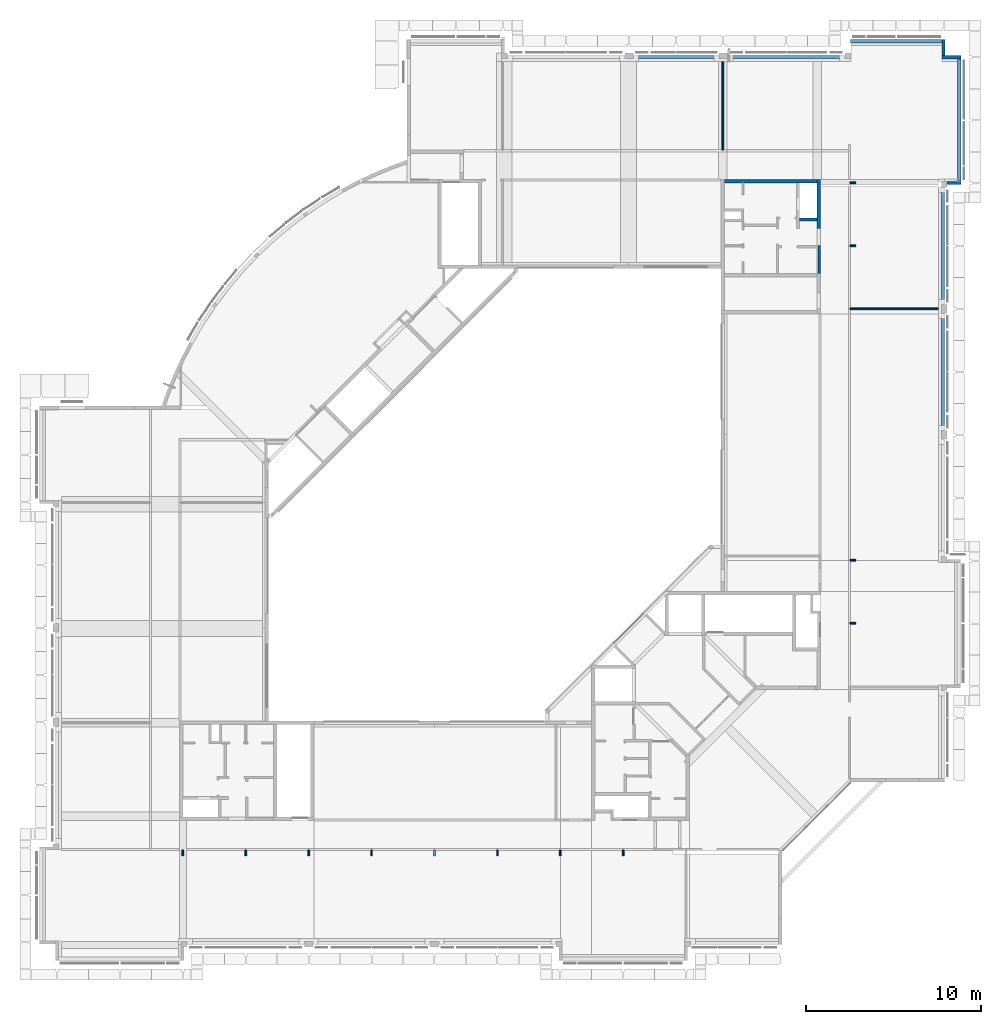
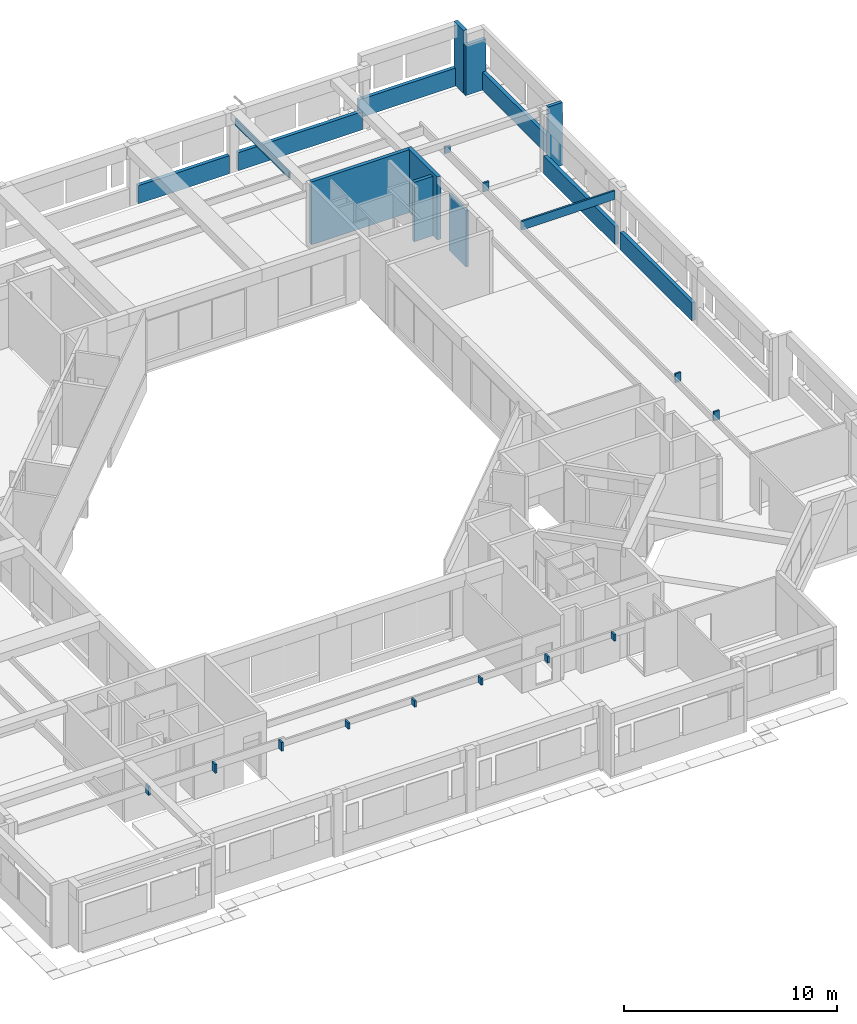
# One storey, part 18 of 26: 27 walls.
"""IFC4X3_ADD2 building model written with IfcOpenShell, lengths in millimetres."""

from ifc_helpers import new_model, si_unit, direction, frame, frame_2d, origin_with_axes, origin_2d_with_axis, place, context, subcontext, project, spatial, polyline, rectangle, outline, extrude, source, transform, mapped, material, type_object, type_shapes, element, save


model = new_model("IFC4X3_ADD2")

# Units and contexts
model_context = context("Model", 3, precision=1e-05, world=origin_with_axes(), true_north=direction((0.0, 1.0)))
body_context = subcontext(model_context, "Body", "Model", "MODEL_VIEW")
ifc_project = project(units=[si_unit("LENGTHUNIT", "METRE", prefix="MILLI"), si_unit("AREAUNIT", "SQUARE_METRE"), si_unit("VOLUMEUNIT", "CUBIC_METRE"), si_unit("PLANEANGLEUNIT", "RADIAN"), si_unit("TIMEUNIT", "SECOND"), si_unit("MASSUNIT", "GRAM")], contexts=[model_context])

# Site, building, storey
site_placement = place(None, origin_with_axes())
site = spatial("IfcSite", under=ifc_project, at=site_placement, Name="Site", CompositionType="ELEMENT")
building_placement = place(site_placement, origin_with_axes())
building = spatial("IfcBuilding", under=site, at=building_placement, Name="IFC Building Story")
storey_placement = place(building_placement, frame((0.0, 0.0, 7200.0), z_axis=(0.0, 0.0, 1.0), x_axis=(1.0, 0.0, 0.0)))
storey = spatial("IfcBuildingStorey", under=building, at=storey_placement, Name="020", Elevation=7200.0)

# Walls
ifc_material_1 = material(Name="BB_Beton_Bestaand")
wall_type_1 = type_object("IfcWallType", Name="BB_Beton_Bestaand 200", PredefinedType="NOTDEFINED", material=ifc_material_1)
wall_1_placement = place(storey_placement, origin_with_axes())
element("IfcWall", 1, at=wall_1_placement, inside=storey, type_object=wall_type_1, Name="Basic Wall:BB_XX_Wand uit beton, 200 mm", ObjectType="Basic Wall:BB_XX_Wand uit beton, 200 mm", PredefinedType="SOLIDWALL", context=body_context, shape_type="SweptSolid", body=[
    extrude(rectangle(XDim=2790.000000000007, YDim=200.0, at=frame_2d((0.0, 0.0), x_axis=(0.0, 1.0))), frame((-7100.0, 42294.99999999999, -80.0), z_axis=(0.0, 0.0, 1.0), x_axis=(1.0, 0.0, 0.0)), (0.0, 0.0, 1.0), 3600.0),
])
wall_type_2 = type_object("IfcWallType", Name="BB_Beton_Bestaand 190", PredefinedType="NOTDEFINED", material=ifc_material_1)
wall_2_placement = place(storey_placement, origin_with_axes())
element("IfcWall", 2, at=wall_2_placement, inside=storey, type_object=wall_type_2, Name="Basic Wall:BB_XX_Wand uit beton, 190 mm", ObjectType="Basic Wall:BB_XX_Wand uit beton, 190 mm", PredefinedType="SOLIDWALL", context=body_context, shape_type="SweptSolid", body=[
    extrude(rectangle(XDim=6709.999999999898, YDim=190.0, at=frame_2d((0.0, 0.0), x_axis=(0.0, 1.0))), frame((0.0, 32700.0, -200.0), z_axis=(0.0, 0.0, 1.0), x_axis=(1.0, 0.0, 0.0)), (0.0, 0.0, 1.0), 1040.0),
])
wall_3_placement = place(storey_placement, origin_with_axes())
element("IfcWall", 3, at=wall_3_placement, inside=storey, type_object=wall_type_2, Name="Basic Wall:BB_XX_Wand uit beton, 190 mm", ObjectType="Basic Wall:BB_XX_Wand uit beton, 190 mm", PredefinedType="SOLIDWALL", context=body_context, shape_type="SweptSolid", body=[
    extrude(rectangle(XDim=6689.999999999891, YDim=190.0, at=frame_2d((0.0, 0.0), x_axis=(0.0, 1.0))), frame((0.0, 39890.00000000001, -200.0), z_axis=(0.0, 0.0, 1.0), x_axis=(1.0, 0.0, 0.0)), (0.0, 0.0, 1.0), 1040.0),
])
wall_4_placement = place(storey_placement, origin_with_axes())
element("IfcWall", 4, at=wall_4_placement, inside=storey, type_object=wall_type_2, Name="Basic Wall:BB_XX_Wand uit beton, 190 mm", ObjectType="Basic Wall:BB_XX_Wand uit beton, 190 mm", PredefinedType="SOLIDWALL", context=body_context, shape_type="SweptSolid", body=[
    extrude(rectangle(XDim=7010.000000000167, YDim=190.0, at=frame_2d((0.0, 0.0), x_axis=(0.0, 1.0))), frame((935.0, 47099.99999999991, -200.0), z_axis=(0.0, 0.0, 1.0), x_axis=(1.0, 0.0, 0.0)), (0.0, 0.0, 1.0), 1040.0),
])
wall_5_placement = place(storey_placement, origin_with_axes())
element("IfcWall", 5, at=wall_5_placement, inside=storey, type_object=wall_type_2, Name="Basic Wall:BB_XX_Wand uit beton, 190 mm", ObjectType="Basic Wall:BB_XX_Wand uit beton, 190 mm", PredefinedType="SOLIDWALL", context=body_context, shape_type="SweptSolid", body=[
    extrude(rectangle(XDim=1089.99999999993, YDim=189.9999999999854, at=origin_2d_with_axis()), frame((484.999999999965, 50680.0, -200.0), z_axis=(0.0, 0.0, 1.0), x_axis=(1.0, 0.0, 0.0)), (0.0, 0.0, 1.0), 2880.0),
])
wall_6_placement = place(storey_placement, origin_with_axes())
element("IfcWall", 6, at=wall_6_placement, inside=storey, type_object=wall_type_2, Name="Basic Wall:BB_XX_Wand uit beton, 190 mm", ObjectType="Basic Wall:BB_XX_Wand uit beton, 190 mm", PredefinedType="SOLIDWALL", context=body_context, shape_type="SweptSolid", body=[
    extrude(rectangle(XDim=900.0000000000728, YDim=190.0, at=frame_2d((0.0, 0.0), x_axis=(0.0, 1.0))), frame((35.0, 51244.99999999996, -200.0), z_axis=(0.0, 0.0, 1.0), x_axis=(1.0, 0.0, 0.0)), (0.0, 0.0, 1.0), 3600.0),
])
wall_7_placement = place(storey_placement, origin_with_axes())
element("IfcWall", 7, at=wall_7_placement, inside=storey, type_object=wall_type_2, Name="Basic Wall:BB_XX_Wand uit beton, 190 mm", ObjectType="Basic Wall:BB_XX_Wand uit beton, 190 mm", PredefinedType="SOLIDWALL", context=body_context, shape_type="SweptSolid", body=[
    extrude(rectangle(XDim=5210.0, YDim=189.9999999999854, at=origin_2d_with_axis()), frame((-2700.0, 51600.0, -200.0), z_axis=(0.0, 0.0, 1.0), x_axis=(1.0, 0.0, 0.0)), (0.0, 0.0, 1.0), 1040.0),
])
wall_8_placement = place(storey_placement, origin_with_axes())
element("IfcWall", 8, at=wall_8_placement, inside=storey, type_object=wall_type_2, Name="Basic Wall:BB_XX_Wand uit beton, 190 mm", ObjectType="Basic Wall:BB_XX_Wand uit beton, 190 mm", PredefinedType="SOLIDWALL", context=body_context, shape_type="SweptSolid", body=[
    extrude(rectangle(XDim=6710.00000000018, YDim=189.9999999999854, at=origin_2d_with_axis()), frame((-9000.000000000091, 50700.0, -200.0), z_axis=(0.0, 0.0, 1.0), x_axis=(1.0, 0.0, 0.0)), (0.0, 0.0, 1.0), 1040.0),
])
wall_9_placement = place(storey_placement, origin_with_axes())
element("IfcWall", 9, at=wall_9_placement, inside=storey, type_object=wall_type_2, Name="Basic Wall:BB_XX_Wand uit beton, 190 mm", ObjectType="Basic Wall:BB_XX_Wand uit beton, 190 mm", PredefinedType="SOLIDWALL", context=body_context, shape_type="SweptSolid", body=[
    extrude(rectangle(XDim=4910.000000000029, YDim=189.9999999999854, at=origin_2d_with_axis()), frame((-15300.00000000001, 50700.0, -200.0), z_axis=(0.0, 0.0, 1.0), x_axis=(1.0, 0.0, 0.0)), (0.0, 0.0, 1.0), 1040.0),
])
wall_10_placement = place(storey_placement, origin_with_axes())
element("IfcWall", 10, at=wall_10_placement, inside=storey, type_object=wall_type_2, Name="Basic Wall:BB_XX_Wand uit beton, 190 mm", ObjectType="Basic Wall:BB_XX_Wand uit beton, 190 mm", PredefinedType="SOLIDWALL", context=body_context, shape_type="SweptSolid", body=[
    extrude(rectangle(XDim=5300.00406588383, YDim=189.9999999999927, at=origin_2d_with_axis()), frame((-9850.002032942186, 43595.0, -80.0), z_axis=(0.0, 0.0, 1.0), x_axis=(1.0, 0.0, 0.0)), (0.0, 0.0, 1.0), 3600.0),
])
wall_type_3 = type_object("IfcWallType", Name="BB_Beton_Bestaand 170", PredefinedType="NOTDEFINED", material=ifc_material_1)
wall_11_placement = place(storey_placement, origin_with_axes())
element("IfcWall", 11, at=wall_11_placement, inside=storey, type_object=wall_type_3, Name="Basic Wall:BB_XX_Wand uit beton, 170 mm", ObjectType="Basic Wall:BB_XX_Wand uit beton, 170 mm", PredefinedType="SOLIDWALL", context=body_context, shape_type="SweptSolid", body=[
    extrude(rectangle(XDim=784.999999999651, YDim=169.9999999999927, at=origin_2d_with_axis()), frame((637.5000000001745, 43490.0, -200.0), z_axis=(0.0, 0.0, 1.0), x_axis=(1.0, 0.0, 0.0)), (0.0, 0.0, 1.0), 3600.0),
])
ifc_material_2 = material(Name="BB_Metselwerk_Bestaand")
wall_type_4 = type_object("IfcWallType", Name="BB_Metselwerk_Bestaand 140", PredefinedType="NOTDEFINED", material=ifc_material_2)
wall_12_placement = place(storey_placement, origin_with_axes())
element("IfcWall", 12, at=wall_12_placement, inside=storey, type_object=wall_type_4, Name="Basic Wall:BB_XX_Wand uit metselwerk, 140 mm", ObjectType="Basic Wall:BB_XX_Wand uit metselwerk, 140 mm", PredefinedType="SOLIDWALL", context=body_context, shape_type="SweptSolid", body=[
    extrude(rectangle(XDim=1609.999999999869, YDim=140.0, at=frame_2d((0.0, 0.0), x_axis=(0.0, 1.0))), frame((-7070.0, 39104.99999999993, -80.0), z_axis=(0.0, 0.0, 1.0), x_axis=(1.0, 0.0, 0.0)), (0.0, 0.0, 1.0), 3220.0),
])
wall_type_5 = type_object("IfcWallType", Name="BB_Metselwerk_Bestaand 190", PredefinedType="NOTDEFINED", material=ifc_material_2)
wall_13_placement = place(storey_placement, origin_with_axes())
element("IfcWall", 13, at=wall_13_placement, inside=storey, type_object=wall_type_5, Name="Basic Wall:BB_XX_Wand uit metselwerk, 190 mm", ObjectType="Basic Wall:BB_XX_Wand uit metselwerk, 190 mm", PredefinedType="SOLIDWALL", context=body_context, shape_type="SweptSolid", body=[
    extrude(rectangle(XDim=999.9999999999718, YDim=189.9999999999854, at=origin_2d_with_axis()), frame((-7700.000000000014, 41405.0, -80.0), z_axis=(0.0, 0.0, 1.0), x_axis=(1.0, 0.0, 0.0)), (0.0, 0.0, 1.0), 3400.0),
])
wall_type_6 = type_object("IfcWallType", Name="Basic Wall_BB_10.01.41#01_Gipskartonwand_MS100 _ 25.50.25_ 100 mm89", PredefinedType="NOTDEFINED")
shared_shape_1 = source(origin_with_axes(), body_context, "Body", "SweptSolid", [
    extrude(rectangle(XDim=5040.00000000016, YDim=12.49999999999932, at=origin_2d_with_axis()), frame((2519.999999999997, 43.7499999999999, 0.0), z_axis=(0.0, 0.0, 1.0), x_axis=(1.0, 0.0, 0.0)), (0.0, 0.0, 1.0), 359.999999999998),
    extrude(rectangle(XDim=5052.50000000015, YDim=12.49999999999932, at=origin_2d_with_axis()), frame((2526.250000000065, 31.2500000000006, 0.0), z_axis=(0.0, 0.0, 1.0), x_axis=(1.0, 0.0, 0.0)), (0.0, 0.0, 1.0), 359.999999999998),
    extrude(rectangle(XDim=5065.00000000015, YDim=50.00000000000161, at=origin_2d_with_axis()), frame((2532.500000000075, -1.072031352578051e-12, 0.0), z_axis=(0.0, 0.0, 1.0), x_axis=(1.0, 0.0, 0.0)), (0.0, 0.0, 1.0), 359.999999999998),
    extrude(rectangle(XDim=5040.00000000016, YDim=12.49999999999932, at=origin_2d_with_axis()), frame((2520.0, -31.2500000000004, 0.0), z_axis=(0.0, 0.0, 1.0), x_axis=(1.0, 0.0, 0.0)), (0.0, 0.0, 1.0), 359.999999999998),
    extrude(rectangle(XDim=5040.00000000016, YDim=12.49999999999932, at=origin_2d_with_axis()), frame((2520.0, -43.74999999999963, 0.0), z_axis=(0.0, 0.0, 1.0), x_axis=(1.0, 0.0, 0.0)), (0.0, 0.0, 1.0), 359.999999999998),
])
type_shapes(wall_type_6, [shared_shape_1])
wall_14_placement = place(storey_placement, frame((-12600.0, 50430.0, 2640.0), z_axis=(0.0, 0.0, 1.0), x_axis=(0.0, -1.0, 0.0)))
element("IfcWall", 14, at=wall_14_placement, inside=storey, type_object=wall_type_6, Name="Basic Wall:BB_10.01.41#01_Gipskartonwand_MS100 / 25.50.25, 100 mm", ObjectType="Basic Wall:BB_10.01.41#01_Gipskartonwand_MS100 / 25.50.25, 100 mm", PredefinedType="PARTITIONING", context=body_context, shape_type="MappedRepresentation", body=[
    mapped(shared_shape_1, transform((0.0, 0.0, 0.0))),
])
wall_type_7 = type_object("IfcWallType", Name="Basic Wall_BB_10.01.41#01_Gipskartonwand_MS100 _ 25.50.25_ 100 mm91", PredefinedType="NOTDEFINED")
shared_shape_2 = source(origin_with_axes(), body_context, "Body", "SweptSolid", [
    extrude(rectangle(XDim=5030.0, YDim=12.50000000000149, at=origin_2d_with_axis()), frame((2515.0, 43.74999999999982, 0.0), z_axis=(0.0, 0.0, 1.0), x_axis=(1.0, 0.0, 0.0)), (0.0, 0.0, 1.0), 500.000000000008),
    extrude(rectangle(XDim=5042.5, YDim=12.50000000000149, at=origin_2d_with_axis()), frame((2521.249999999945, 31.24999999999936, 0.0), z_axis=(0.0, 0.0, 1.0), x_axis=(1.0, 0.0, 0.0)), (0.0, 0.0, 1.0), 500.000000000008),
    extrude(rectangle(XDim=5055.0, YDim=49.9999999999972, at=origin_2d_with_axis()), frame((2527.49999999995, 0.0, 0.0), z_axis=(0.0, 0.0, 1.0), x_axis=(1.0, 0.0, 0.0)), (0.0, 0.0, 1.0), 500.000000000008),
    extrude(rectangle(XDim=5030.0, YDim=12.50000000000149, at=origin_2d_with_axis()), frame((2515.0, -31.24999999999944, 0.0), z_axis=(0.0, 0.0, 1.0), x_axis=(1.0, 0.0, 0.0)), (0.0, 0.0, 1.0), 500.000000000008),
    extrude(rectangle(XDim=5030.0, YDim=12.49999999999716, at=origin_2d_with_axis()), frame((2515.0, -43.74999999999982, 0.0), z_axis=(0.0, 0.0, 1.0), x_axis=(1.0, 0.0, 0.0)), (0.0, 0.0, 1.0), 500.000000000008),
])
type_shapes(wall_type_7, [shared_shape_2])
wall_15_placement = place(storey_placement, frame((-270.0, 36300.0, 2640.0), z_axis=(0.0, 0.0, 1.0), x_axis=(-1.0, 0.0, 0.0)))
element("IfcWall", 15, at=wall_15_placement, inside=storey, type_object=wall_type_7, Name="Basic Wall:BB_10.01.41#01_Gipskartonwand_MS100 / 25.50.25, 100 mm", ObjectType="Basic Wall:BB_10.01.41#01_Gipskartonwand_MS100 / 25.50.25, 100 mm", PredefinedType="PARTITIONING", context=body_context, shape_type="MappedRepresentation", body=[
    mapped(shared_shape_2, transform((0.0, 0.0, 0.0))),
])
wall_type_8 = type_object("IfcWallType", Name="Basic Wall_BB_10.01.41#01_Gipskartonwand_MS100 _ 25.50.25_ 100 mm93", PredefinedType="NOTDEFINED")
shared_shape_3 = source(origin_with_axes(), body_context, "Body", "SweptSolid", [
    extrude(rectangle(XDim=299.999999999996, YDim=12.50000000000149, at=origin_2d_with_axis()), frame((150.0, 43.74999999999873, 0.0), z_axis=(0.0, 0.0, 1.0), x_axis=(1.0, 0.0, 0.0)), (0.0, 0.0, 1.0), 500.000000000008),
    extrude(outline(polyline([(-204.1666666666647, -213.3333333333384), (-204.1666666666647, 286.6666666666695), (108.3333333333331, 286.6666666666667), (108.3333333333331, -73.3333333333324), (95.83333333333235, -73.33333333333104), (95.83333333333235, -213.3333333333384), (-204.1666666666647, -213.3333333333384)])), frame((204.1666666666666, 25.000000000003, 286.6666666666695), z_axis=(0.0, 1.0, 0.0), x_axis=(1.0, 0.0, 0.0)), (0.0, 0.0, 1.0), 12.5000000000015),
    extrude(outline(polyline([(-208.3333333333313, -213.3333333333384), (-208.3333333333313, 286.6666666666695), (116.6666666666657, 286.6666666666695), (116.6666666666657, -73.33333333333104), (91.66666666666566, -73.33333333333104), (91.66666666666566, -213.3333333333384), (-208.3333333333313, -213.3333333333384)])), frame((208.3333333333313, -24.9999999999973, 286.6666666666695), z_axis=(0.0, 1.0, 0.0), x_axis=(1.0, 0.0, 0.0)), (0.0, 0.0, 1.0), 49.9999999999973),
    extrude(rectangle(XDim=299.999999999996, YDim=12.50000000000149, at=origin_2d_with_axis()), frame((150.0, -31.25000000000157, 0.0), z_axis=(0.0, 0.0, 1.0), x_axis=(1.0, 0.0, 0.0)), (0.0, 0.0, 1.0), 500.000000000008),
    extrude(rectangle(XDim=299.999999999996, YDim=12.49999999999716, at=origin_2d_with_axis()), frame((150.0, -43.750000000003, 0.0), z_axis=(0.0, 0.0, 1.0), x_axis=(1.0, 0.0, 0.0)), (0.0, 0.0, 1.0), 500.000000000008),
])
type_shapes(wall_type_8, [shared_shape_3])
wall_16_placement = place(storey_placement, frame((-5000.0, 21900.0, 2640.0), z_axis=(0.0, 0.0, 1.0), x_axis=(-1.0, 0.0, 0.0)))
element("IfcWall", 16, at=wall_16_placement, inside=storey, type_object=wall_type_8, Name="Basic Wall:BB_10.01.41#01_Gipskartonwand_MS100 / 25.50.25, 100 mm", ObjectType="Basic Wall:BB_10.01.41#01_Gipskartonwand_MS100 / 25.50.25, 100 mm", PredefinedType="PARTITIONING", context=body_context, shape_type="MappedRepresentation", body=[
    mapped(shared_shape_3, transform((0.0, 0.0, 0.0))),
])
wall_type_9 = type_object("IfcWallType", Name="Basic Wall_BB_10.01.41#01_Gipskartonwand_MS100 _ 25.50.25_ 100 mm95", PredefinedType="NOTDEFINED")
shared_shape_4 = source(origin_with_axes(), body_context, "Body", "SweptSolid", [
    extrude(rectangle(XDim=300.0, YDim=12.49999999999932, at=origin_2d_with_axis()), frame((150.0, 43.74999999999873, 0.0), z_axis=(0.0, 0.0, 1.0), x_axis=(1.0, 0.0, 0.0)), (0.0, 0.0, 1.0), 360.0),
    extrude(rectangle(XDim=312.5, YDim=12.49999999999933, at=origin_2d_with_axis()), frame((156.2500000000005, 31.25000000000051, 0.0), z_axis=(0.0, 0.0, 1.0), x_axis=(1.0, 0.0, 0.0)), (0.0, 0.0, 1.0), 360.0),
    extrude(rectangle(XDim=325.0, YDim=50.0000000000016, at=origin_2d_with_axis()), frame((162.5000000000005, 0.0, 0.0), z_axis=(0.0, 0.0, 1.0), x_axis=(1.0, 0.0, 0.0)), (0.0, 0.0, 1.0), 360.0),
    extrude(rectangle(XDim=300.0, YDim=12.49999999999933, at=origin_2d_with_axis()), frame((150.0, -31.25000000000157, 0.0), z_axis=(0.0, 0.0, 1.0), x_axis=(1.0, 0.0, 0.0)), (0.0, 0.0, 1.0), 360.0),
    extrude(rectangle(XDim=300.0, YDim=12.49999999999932, at=origin_2d_with_axis()), frame((150.0, -43.750000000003, 0.0), z_axis=(0.0, 0.0, 1.0), x_axis=(1.0, 0.0, 0.0)), (0.0, 0.0, 1.0), 360.0),
])
type_shapes(wall_type_9, [shared_shape_4])
wall_17_placement = place(storey_placement, frame((-18300.0, 5000.0, 2640.0), z_axis=(0.0, 0.0, 1.0), x_axis=(0.0, 1.0, 0.0)))
element("IfcWall", 17, at=wall_17_placement, inside=storey, type_object=wall_type_9, Name="Basic Wall:BB_10.01.41#01_Gipskartonwand_MS100 / 25.50.25, 100 mm", ObjectType="Basic Wall:BB_10.01.41#01_Gipskartonwand_MS100 / 25.50.25, 100 mm", PredefinedType="PARTITIONING", context=body_context, shape_type="MappedRepresentation", body=[
    mapped(shared_shape_4, transform((0.0, 0.0, 0.0))),
])
wall_type_10 = type_object("IfcWallType", Name="Basic Wall_BB_10.01.41#01_Gipskartonwand_MS100 _ 25.50.25_ 100 mm97", PredefinedType="NOTDEFINED")
shared_shape_5 = source(origin_with_axes(), body_context, "Body", "SweptSolid", [
    extrude(rectangle(XDim=299.999999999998, YDim=12.50000000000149, at=origin_2d_with_axis()), frame((150.0, 43.74999999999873, 0.0), z_axis=(0.0, 0.0, 1.0), x_axis=(1.0, 0.0, 0.0)), (0.0, 0.0, 1.0), 360.0),
    extrude(rectangle(XDim=312.499999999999, YDim=12.50000000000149, at=origin_2d_with_axis()), frame((156.2500000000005, 31.25000000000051, 0.0), z_axis=(0.0, 0.0, 1.0), x_axis=(1.0, 0.0, 0.0)), (0.0, 0.0, 1.0), 360.0),
    extrude(rectangle(XDim=324.999999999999, YDim=49.9999999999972, at=origin_2d_with_axis()), frame((162.5000000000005, 0.0, 0.0), z_axis=(0.0, 0.0, 1.0), x_axis=(1.0, 0.0, 0.0)), (0.0, 0.0, 1.0), 360.0),
    extrude(rectangle(XDim=299.999999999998, YDim=12.50000000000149, at=origin_2d_with_axis()), frame((150.0, -31.25000000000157, 0.0), z_axis=(0.0, 0.0, 1.0), x_axis=(1.0, 0.0, 0.0)), (0.0, 0.0, 1.0), 360.0),
    extrude(rectangle(XDim=299.999999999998, YDim=12.49999999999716, at=origin_2d_with_axis()), frame((150.0, -43.750000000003, 0.0), z_axis=(0.0, 0.0, 1.0), x_axis=(1.0, 0.0, 0.0)), (0.0, 0.0, 1.0), 360.0),
])
type_shapes(wall_type_10, [shared_shape_5])
wall_18_placement = place(storey_placement, frame((-21900.0, 5000.0, 2640.0), z_axis=(0.0, 0.0, 1.0), x_axis=(0.0, 1.0, 0.0)))
element("IfcWall", 18, at=wall_18_placement, inside=storey, type_object=wall_type_10, Name="Basic Wall:BB_10.01.41#01_Gipskartonwand_MS100 / 25.50.25, 100 mm", ObjectType="Basic Wall:BB_10.01.41#01_Gipskartonwand_MS100 / 25.50.25, 100 mm", PredefinedType="PARTITIONING", context=body_context, shape_type="MappedRepresentation", body=[
    mapped(shared_shape_5, transform((0.0, 0.0, 0.0))),
])
wall_type_11 = type_object("IfcWallType", Name="Basic Wall_BB_10.01.41#01_Gipskartonwand_MS100 _ 25.50.25_ 100 mm99", PredefinedType="NOTDEFINED")
shared_shape_6 = source(origin_with_axes(), body_context, "Body", "SweptSolid", [
    extrude(rectangle(XDim=299.999999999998, YDim=12.50000000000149, at=origin_2d_with_axis()), frame((150.0, 43.74999999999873, 0.0), z_axis=(0.0, 0.0, 1.0), x_axis=(1.0, 0.0, 0.0)), (0.0, 0.0, 1.0), 360.0),
    extrude(rectangle(XDim=312.499999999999, YDim=12.50000000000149, at=origin_2d_with_axis()), frame((156.2500000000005, 31.25000000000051, 0.0), z_axis=(0.0, 0.0, 1.0), x_axis=(1.0, 0.0, 0.0)), (0.0, 0.0, 1.0), 360.0),
    extrude(rectangle(XDim=324.999999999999, YDim=49.9999999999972, at=origin_2d_with_axis()), frame((162.5000000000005, 0.0, 0.0), z_axis=(0.0, 0.0, 1.0), x_axis=(1.0, 0.0, 0.0)), (0.0, 0.0, 1.0), 360.0),
    extrude(rectangle(XDim=299.999999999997, YDim=12.50000000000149, at=origin_2d_with_axis()), frame((150.0, -31.25000000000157, 0.0), z_axis=(0.0, 0.0, 1.0), x_axis=(1.0, 0.0, 0.0)), (0.0, 0.0, 1.0), 360.0),
    extrude(rectangle(XDim=299.999999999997, YDim=12.49999999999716, at=origin_2d_with_axis()), frame((150.0, -43.750000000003, 0.0), z_axis=(0.0, 0.0, 1.0), x_axis=(1.0, 0.0, 0.0)), (0.0, 0.0, 1.0), 360.0),
])
type_shapes(wall_type_11, [shared_shape_6])
wall_19_placement = place(storey_placement, frame((-25500.0, 5000.0, 2640.0), z_axis=(0.0, 0.0, 1.0), x_axis=(0.0, 1.0, 0.0)))
element("IfcWall", 19, at=wall_19_placement, inside=storey, type_object=wall_type_11, Name="Basic Wall:BB_10.01.41#01_Gipskartonwand_MS100 / 25.50.25, 100 mm", ObjectType="Basic Wall:BB_10.01.41#01_Gipskartonwand_MS100 / 25.50.25, 100 mm", PredefinedType="PARTITIONING", context=body_context, shape_type="MappedRepresentation", body=[
    mapped(shared_shape_6, transform((0.0, 0.0, 0.0))),
])
wall_type_12 = type_object("IfcWallType", Name="Basic Wall_BB_10.01.41#01_Gipskartonwand_MS100 _ 25.50.25_ 100 mm101", PredefinedType="NOTDEFINED")
shared_shape_7 = source(origin_with_axes(), body_context, "Body", "SweptSolid", [
    extrude(rectangle(XDim=299.999999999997, YDim=12.50000000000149, at=origin_2d_with_axis()), frame((150.0, 43.74999999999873, 0.0), z_axis=(0.0, 0.0, 1.0), x_axis=(1.0, 0.0, 0.0)), (0.0, 0.0, 1.0), 360.0),
    extrude(rectangle(XDim=312.499999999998, YDim=12.50000000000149, at=origin_2d_with_axis()), frame((156.2500000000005, 31.25000000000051, 0.0), z_axis=(0.0, 0.0, 1.0), x_axis=(1.0, 0.0, 0.0)), (0.0, 0.0, 1.0), 360.0),
    extrude(rectangle(XDim=324.999999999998, YDim=49.9999999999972, at=origin_2d_with_axis()), frame((162.5000000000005, 0.0, 0.0), z_axis=(0.0, 0.0, 1.0), x_axis=(1.0, 0.0, 0.0)), (0.0, 0.0, 1.0), 360.0),
    extrude(rectangle(XDim=299.999999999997, YDim=12.50000000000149, at=origin_2d_with_axis()), frame((150.0, -31.25000000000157, 0.0), z_axis=(0.0, 0.0, 1.0), x_axis=(1.0, 0.0, 0.0)), (0.0, 0.0, 1.0), 360.0),
    extrude(rectangle(XDim=299.999999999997, YDim=12.49999999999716, at=origin_2d_with_axis()), frame((150.0, -43.750000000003, 0.0), z_axis=(0.0, 0.0, 1.0), x_axis=(1.0, 0.0, 0.0)), (0.0, 0.0, 1.0), 360.0),
])
type_shapes(wall_type_12, [shared_shape_7])
wall_20_placement = place(storey_placement, frame((-29100.0, 5000.0, 2640.0), z_axis=(0.0, 0.0, 1.0), x_axis=(0.0, 1.0, 0.0)))
element("IfcWall", 20, at=wall_20_placement, inside=storey, type_object=wall_type_12, Name="Basic Wall:BB_10.01.41#01_Gipskartonwand_MS100 / 25.50.25, 100 mm", ObjectType="Basic Wall:BB_10.01.41#01_Gipskartonwand_MS100 / 25.50.25, 100 mm", PredefinedType="PARTITIONING", context=body_context, shape_type="MappedRepresentation", body=[
    mapped(shared_shape_7, transform((0.0, 0.0, 0.0))),
])
wall_type_13 = type_object("IfcWallType", Name="Basic Wall_BB_10.01.41#01_Gipskartonwand_MS100 _ 25.50.25_ 100 mm103", PredefinedType="NOTDEFINED")
shared_shape_8 = source(origin_with_axes(), body_context, "Body", "SweptSolid", [
    extrude(rectangle(XDim=299.999999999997, YDim=12.50000000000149, at=origin_2d_with_axis()), frame((150.0, 43.74999999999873, 0.0), z_axis=(0.0, 0.0, 1.0), x_axis=(1.0, 0.0, 0.0)), (0.0, 0.0, 1.0), 360.0),
    extrude(rectangle(XDim=312.499999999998, YDim=12.50000000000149, at=origin_2d_with_axis()), frame((156.2500000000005, 31.25000000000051, 0.0), z_axis=(0.0, 0.0, 1.0), x_axis=(1.0, 0.0, 0.0)), (0.0, 0.0, 1.0), 360.0),
    extrude(rectangle(XDim=324.999999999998, YDim=49.9999999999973, at=origin_2d_with_axis()), frame((162.5000000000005, 0.0, 0.0), z_axis=(0.0, 0.0, 1.0), x_axis=(1.0, 0.0, 0.0)), (0.0, 0.0, 1.0), 360.0),
    extrude(rectangle(XDim=299.999999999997, YDim=12.50000000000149, at=origin_2d_with_axis()), frame((150.0, -31.25000000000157, 0.0), z_axis=(0.0, 0.0, 1.0), x_axis=(1.0, 0.0, 0.0)), (0.0, 0.0, 1.0), 360.0),
    extrude(rectangle(XDim=299.999999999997, YDim=12.49999999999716, at=origin_2d_with_axis()), frame((150.0, -43.750000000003, 0.0), z_axis=(0.0, 0.0, 1.0), x_axis=(1.0, 0.0, 0.0)), (0.0, 0.0, 1.0), 360.0),
])
type_shapes(wall_type_13, [shared_shape_8])
wall_21_placement = place(storey_placement, frame((-32700.0, 5000.0, 2640.0), z_axis=(0.0, 0.0, 1.0), x_axis=(0.0, 1.0, 0.0)))
element("IfcWall", 21, at=wall_21_placement, inside=storey, type_object=wall_type_13, Name="Basic Wall:BB_10.01.41#01_Gipskartonwand_MS100 / 25.50.25, 100 mm", ObjectType="Basic Wall:BB_10.01.41#01_Gipskartonwand_MS100 / 25.50.25, 100 mm", PredefinedType="PARTITIONING", context=body_context, shape_type="MappedRepresentation", body=[
    mapped(shared_shape_8, transform((0.0, 0.0, 0.0))),
])
wall_type_14 = type_object("IfcWallType", Name="Basic Wall_BB_10.01.41#01_Gipskartonwand_MS100 _ 25.50.25_ 100 mm105", PredefinedType="NOTDEFINED")
shared_shape_9 = source(origin_with_axes(), body_context, "Body", "SweptSolid", [
    extrude(rectangle(XDim=299.999999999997, YDim=12.50000000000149, at=origin_2d_with_axis()), frame((150.0, 43.74999999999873, 0.0), z_axis=(0.0, 0.0, 1.0), x_axis=(1.0, 0.0, 0.0)), (0.0, 0.0, 1.0), 500.000000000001),
    extrude(rectangle(XDim=312.499999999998, YDim=12.50000000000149, at=origin_2d_with_axis()), frame((156.2500000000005, 31.25000000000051, 0.0), z_axis=(0.0, 0.0, 1.0), x_axis=(1.0, 0.0, 0.0)), (0.0, 0.0, 1.0), 500.000000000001),
    extrude(rectangle(XDim=324.999999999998, YDim=49.9999999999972, at=origin_2d_with_axis()), frame((162.5000000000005, 0.0, 0.0), z_axis=(0.0, 0.0, 1.0), x_axis=(1.0, 0.0, 0.0)), (0.0, 0.0, 1.0), 500.000000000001),
    extrude(rectangle(XDim=299.999999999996, YDim=12.50000000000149, at=origin_2d_with_axis()), frame((150.0, -31.25000000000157, 0.0), z_axis=(0.0, 0.0, 1.0), x_axis=(1.0, 0.0, 0.0)), (0.0, 0.0, 1.0), 500.000000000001),
    extrude(rectangle(XDim=299.999999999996, YDim=12.49999999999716, at=origin_2d_with_axis()), frame((150.0, -43.750000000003, 0.0), z_axis=(0.0, 0.0, 1.0), x_axis=(1.0, 0.0, 0.0)), (0.0, 0.0, 1.0), 500.000000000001),
])
type_shapes(wall_type_14, [shared_shape_9])
wall_22_placement = place(storey_placement, frame((-36300.0, 5000.0, 2640.0), z_axis=(0.0, 0.0, 1.0), x_axis=(0.0, 1.0, 0.0)))
element("IfcWall", 22, at=wall_22_placement, inside=storey, type_object=wall_type_14, Name="Basic Wall:BB_10.01.41#01_Gipskartonwand_MS100 / 25.50.25, 100 mm", ObjectType="Basic Wall:BB_10.01.41#01_Gipskartonwand_MS100 / 25.50.25, 100 mm", PredefinedType="PARTITIONING", context=body_context, shape_type="MappedRepresentation", body=[
    mapped(shared_shape_9, transform((0.0, 0.0, 0.0))),
])
wall_type_15 = type_object("IfcWallType", Name="Basic Wall_BB_10.01.41#01_Gipskartonwand_MS100 _ 25.50.25_ 100 mm117", PredefinedType="NOTDEFINED")
shared_shape_10 = source(origin_with_axes(), body_context, "Body", "SweptSolid", [
    extrude(rectangle(XDim=299.999999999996, YDim=12.49999999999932, at=origin_2d_with_axis()), frame((150.0, 43.74999999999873, 0.0), z_axis=(0.0, 0.0, 1.0), x_axis=(1.0, 0.0, 0.0)), (0.0, 0.0, 1.0), 500.000000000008),
    extrude(outline(polyline([(-204.1666666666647, -213.3333333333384), (-204.1666666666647, 286.6666666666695), (108.3333333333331, 286.6666666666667), (108.3333333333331, -73.3333333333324), (95.83333333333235, -73.33333333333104), (95.83333333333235, -213.3333333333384), (-204.1666666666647, -213.3333333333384)])), frame((204.1666666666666, 25.000000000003, 286.6666666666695), z_axis=(0.0, 1.0, 0.0), x_axis=(1.0, 0.0, 0.0)), (0.0, 0.0, 1.0), 12.49999999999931),
    extrude(outline(polyline([(-208.3333333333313, -213.3333333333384), (-208.3333333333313, 286.6666666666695), (116.6666666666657, 286.6666666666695), (116.6666666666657, -73.33333333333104), (91.66666666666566, -73.33333333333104), (91.66666666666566, -213.3333333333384), (-208.3333333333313, -213.3333333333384)])), frame((208.3333333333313, -24.9999999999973, 286.6666666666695), z_axis=(0.0, 1.0, 0.0), x_axis=(1.0, 0.0, 0.0)), (0.0, 0.0, 1.0), 50.00000000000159),
    extrude(rectangle(XDim=299.999999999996, YDim=12.49999999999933, at=origin_2d_with_axis()), frame((150.0, -31.25000000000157, 0.0), z_axis=(0.0, 0.0, 1.0), x_axis=(1.0, 0.0, 0.0)), (0.0, 0.0, 1.0), 500.000000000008),
    extrude(rectangle(XDim=299.999999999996, YDim=12.49999999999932, at=origin_2d_with_axis()), frame((150.0, -43.750000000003, 0.0), z_axis=(0.0, 0.0, 1.0), x_axis=(1.0, 0.0, 0.0)), (0.0, 0.0, 1.0), 500.000000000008),
])
type_shapes(wall_type_15, [shared_shape_10])
wall_23_placement = place(storey_placement, frame((-5000.0, 18300.0, 2640.0), z_axis=(0.0, 0.0, 1.0), x_axis=(-1.0, 0.0, 0.0)))
element("IfcWall", 23, at=wall_23_placement, inside=storey, type_object=wall_type_15, Name="Basic Wall:BB_10.01.41#01_Gipskartonwand_MS100 / 25.50.25, 100 mm", ObjectType="Basic Wall:BB_10.01.41#01_Gipskartonwand_MS100 / 25.50.25, 100 mm", PredefinedType="PARTITIONING", context=body_context, shape_type="MappedRepresentation", body=[
    mapped(shared_shape_10, transform((0.0, 0.0, 0.0))),
])
wall_type_16 = type_object("IfcWallType", Name="Basic Wall_BB_10.01.41#01_Gipskartonwand_MS100 _ 25.50.25_ 100 mm125", PredefinedType="NOTDEFINED")
shared_shape_11 = source(origin_with_axes(), body_context, "Body", "SweptSolid", [
    extrude(rectangle(XDim=299.999999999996, YDim=12.49999999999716, at=origin_2d_with_axis()), frame((150.0, 43.74999999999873, 0.0), z_axis=(0.0, 0.0, 1.0), x_axis=(1.0, 0.0, 0.0)), (0.0, 0.0, 1.0), 500.000000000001),
    extrude(rectangle(XDim=312.499999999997, YDim=12.49999999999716, at=origin_2d_with_axis()), frame((156.2500000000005, 31.25000000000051, 0.0), z_axis=(0.0, 0.0, 1.0), x_axis=(1.0, 0.0, 0.0)), (0.0, 0.0, 1.0), 500.000000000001),
    extrude(rectangle(XDim=324.999999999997, YDim=50.000000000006, at=origin_2d_with_axis()), frame((162.5000000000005, 0.0, 0.0), z_axis=(0.0, 0.0, 1.0), x_axis=(1.0, 0.0, 0.0)), (0.0, 0.0, 1.0), 500.000000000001),
    extrude(rectangle(XDim=299.999999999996, YDim=12.49999999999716, at=origin_2d_with_axis()), frame((150.0, -31.25000000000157, 0.0), z_axis=(0.0, 0.0, 1.0), x_axis=(1.0, 0.0, 0.0)), (0.0, 0.0, 1.0), 500.000000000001),
    extrude(rectangle(XDim=299.999999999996, YDim=12.50000000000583, at=origin_2d_with_axis()), frame((150.0, -43.750000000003, 0.0), z_axis=(0.0, 0.0, 1.0), x_axis=(1.0, 0.0, 0.0)), (0.0, 0.0, 1.0), 500.000000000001),
])
type_shapes(wall_type_16, [shared_shape_11])
wall_24_placement = place(storey_placement, frame((-39900.0, 5000.0, 2640.0), z_axis=(0.0, 0.0, 1.0), x_axis=(0.0, 1.0, 0.0)))
element("IfcWall", 24, at=wall_24_placement, inside=storey, type_object=wall_type_16, Name="Basic Wall:BB_10.01.41#01_Gipskartonwand_MS100 / 25.50.25, 100 mm", ObjectType="Basic Wall:BB_10.01.41#01_Gipskartonwand_MS100 / 25.50.25, 100 mm", PredefinedType="PARTITIONING", context=body_context, shape_type="MappedRepresentation", body=[
    mapped(shared_shape_11, transform((0.0, 0.0, 0.0))),
])
wall_type_17 = type_object("IfcWallType", Name="Basic Wall_BB_10.01.41#01_Gipskartonwand_MS100 _ 25.50.25_ 100 mm127", PredefinedType="NOTDEFINED")
shared_shape_12 = source(origin_with_axes(), body_context, "Body", "SweptSolid", [
    extrude(rectangle(XDim=299.999999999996, YDim=12.49999999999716, at=origin_2d_with_axis()), frame((150.0, 43.74999999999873, 0.0), z_axis=(0.0, 0.0, 1.0), x_axis=(1.0, 0.0, 0.0)), (0.0, 0.0, 1.0), 500.000000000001),
    extrude(outline(polyline([(-204.1666666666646, -180.0000000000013), (-204.1666666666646, 320.0), (108.3333333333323, 320.0), (108.3333333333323, -139.9999999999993), (95.83333333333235, -139.9999999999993), (95.83333333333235, -180.0000000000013), (-204.1666666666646, -180.0000000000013)])), frame((204.1666666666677, 25.0000000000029, 320.0000000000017), z_axis=(0.0, 1.0, 0.0), x_axis=(1.0, 0.0, 0.0)), (0.0, 0.0, 1.0), 12.49999999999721),
    extrude(outline(polyline([(-208.3333333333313, -180.0000000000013), (-208.3333333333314, 320.0), (116.6666666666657, 320.0), (116.6666666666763, -140.0000000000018), (91.66666666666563, -139.9999999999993), (91.66666666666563, -180.0000000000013), (-208.3333333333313, -180.0000000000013)])), frame((208.3333333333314, -25.000000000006, 320.0000000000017), z_axis=(0.0, 1.0, 0.0), x_axis=(1.0, 0.0, 0.0)), (0.0, 0.0, 1.0), 50.000000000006),
    extrude(rectangle(XDim=299.999999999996, YDim=12.49999999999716, at=origin_2d_with_axis()), frame((150.0, -31.25000000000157, 0.0), z_axis=(0.0, 0.0, 1.0), x_axis=(1.0, 0.0, 0.0)), (0.0, 0.0, 1.0), 500.000000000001),
    extrude(rectangle(XDim=299.999999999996, YDim=12.50000000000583, at=origin_2d_with_axis()), frame((150.0, -43.750000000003, 0.0), z_axis=(0.0, 0.0, 1.0), x_axis=(1.0, 0.0, 0.0)), (0.0, 0.0, 1.0), 500.000000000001),
])
type_shapes(wall_type_17, [shared_shape_12])
wall_25_placement = place(storey_placement, frame((-43500.0, 5000.0, 2640.0), z_axis=(0.0, 0.0, 1.0), x_axis=(0.0, 1.0, 0.0)))
element("IfcWall", 25, at=wall_25_placement, inside=storey, type_object=wall_type_17, Name="Basic Wall:BB_10.01.41#01_Gipskartonwand_MS100 / 25.50.25, 100 mm", ObjectType="Basic Wall:BB_10.01.41#01_Gipskartonwand_MS100 / 25.50.25, 100 mm", PredefinedType="PARTITIONING", context=body_context, shape_type="MappedRepresentation", body=[
    mapped(shared_shape_12, transform((0.0, 0.0, 0.0))),
])
wall_type_18 = type_object("IfcWallType", Name="Basic Wall_BB_10.01.41#01_Gipskartonwand_MS100 _ 25.50.25_ 100 mm133", PredefinedType="NOTDEFINED")
shared_shape_13 = source(origin_with_axes(), body_context, "Body", "SweptSolid", [
    extrude(rectangle(XDim=299.999999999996, YDim=12.49999999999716, at=origin_2d_with_axis()), frame((150.0, 43.74999999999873, 0.0), z_axis=(0.0, 0.0, 1.0), x_axis=(1.0, 0.0, 0.0)), (0.0, 0.0, 1.0), 500.000000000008),
    extrude(rectangle(XDim=312.499999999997, YDim=12.49999999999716, at=origin_2d_with_axis()), frame((156.2500000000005, 31.25000000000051, 0.0), z_axis=(0.0, 0.0, 1.0), x_axis=(1.0, 0.0, 0.0)), (0.0, 0.0, 1.0), 500.000000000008),
    extrude(rectangle(XDim=324.999999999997, YDim=50.000000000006, at=origin_2d_with_axis()), frame((162.5000000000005, 0.0, 0.0), z_axis=(0.0, 0.0, 1.0), x_axis=(1.0, 0.0, 0.0)), (0.0, 0.0, 1.0), 500.000000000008),
    extrude(rectangle(XDim=299.999999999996, YDim=12.49999999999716, at=origin_2d_with_axis()), frame((150.0, -31.25000000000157, 0.0), z_axis=(0.0, 0.0, 1.0), x_axis=(1.0, 0.0, 0.0)), (0.0, 0.0, 1.0), 500.000000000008),
    extrude(rectangle(XDim=299.999999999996, YDim=12.50000000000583, at=origin_2d_with_axis()), frame((150.0, -43.750000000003, 0.0), z_axis=(0.0, 0.0, 1.0), x_axis=(1.0, 0.0, 0.0)), (0.0, 0.0, 1.0), 500.000000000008),
])
type_shapes(wall_type_18, [shared_shape_13])
wall_26_placement = place(storey_placement, frame((-5000.0, 39900.0, 2640.0), z_axis=(0.0, 0.0, 1.0), x_axis=(-1.0, 0.0, 0.0)))
element("IfcWall", 26, at=wall_26_placement, inside=storey, type_object=wall_type_18, Name="Basic Wall:BB_10.01.41#01_Gipskartonwand_MS100 / 25.50.25, 100 mm", ObjectType="Basic Wall:BB_10.01.41#01_Gipskartonwand_MS100 / 25.50.25, 100 mm", PredefinedType="PARTITIONING", context=body_context, shape_type="MappedRepresentation", body=[
    mapped(shared_shape_13, transform((0.0, 0.0, 0.0))),
])
wall_type_19 = type_object("IfcWallType", Name="Basic Wall_BB_10.01.41#01_Gipskartonwand_MS100 _ 25.50.25_ 100 mm135", PredefinedType="NOTDEFINED")
shared_shape_14 = source(origin_with_axes(), body_context, "Body", "SweptSolid", [
    extrude(rectangle(XDim=299.999999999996, YDim=12.49999999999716, at=origin_2d_with_axis()), frame((150.0, 43.74999999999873, 0.0), z_axis=(0.0, 0.0, 1.0), x_axis=(1.0, 0.0, 0.0)), (0.0, 0.0, 1.0), 370.000000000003),
    extrude(rectangle(XDim=312.499999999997, YDim=12.49999999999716, at=origin_2d_with_axis()), frame((156.2500000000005, 31.25000000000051, 0.0), z_axis=(0.0, 0.0, 1.0), x_axis=(1.0, 0.0, 0.0)), (0.0, 0.0, 1.0), 370.000000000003),
    extrude(rectangle(XDim=324.999999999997, YDim=50.000000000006, at=origin_2d_with_axis()), frame((162.5000000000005, 0.0, 0.0), z_axis=(0.0, 0.0, 1.0), x_axis=(1.0, 0.0, 0.0)), (0.0, 0.0, 1.0), 370.000000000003),
    extrude(rectangle(XDim=299.999999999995, YDim=12.49999999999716, at=origin_2d_with_axis()), frame((150.0, -31.25000000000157, 0.0), z_axis=(0.0, 0.0, 1.0), x_axis=(1.0, 0.0, 0.0)), (0.0, 0.0, 1.0), 370.000000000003),
    extrude(rectangle(XDim=299.999999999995, YDim=12.50000000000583, at=origin_2d_with_axis()), frame((150.0, -43.750000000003, 0.0), z_axis=(0.0, 0.0, 1.0), x_axis=(1.0, 0.0, 0.0)), (0.0, 0.0, 1.0), 370.000000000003),
])
type_shapes(wall_type_19, [shared_shape_14])
wall_27_placement = place(storey_placement, frame((-5000.0, 43500.0, 2640.0), z_axis=(0.0, 0.0, 1.0), x_axis=(-1.0, 0.0, 0.0)))
element("IfcWall", 27, at=wall_27_placement, inside=storey, type_object=wall_type_19, Name="Basic Wall:BB_10.01.41#01_Gipskartonwand_MS100 / 25.50.25, 100 mm", ObjectType="Basic Wall:BB_10.01.41#01_Gipskartonwand_MS100 / 25.50.25, 100 mm", PredefinedType="PARTITIONING", context=body_context, shape_type="MappedRepresentation", body=[
    mapped(shared_shape_14, transform((0.0, 0.0, 0.0))),
])

save(model, "model.ifc")
